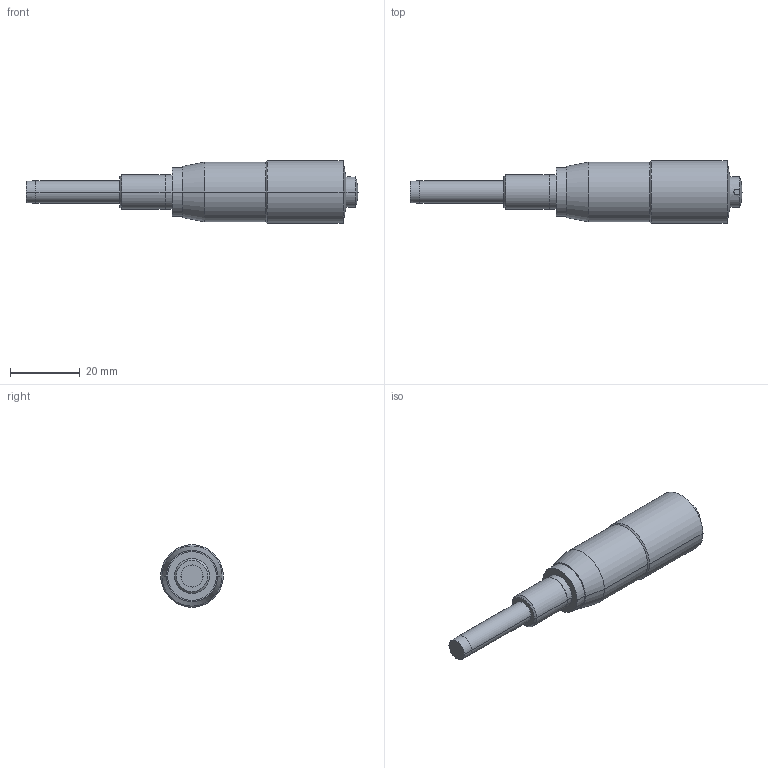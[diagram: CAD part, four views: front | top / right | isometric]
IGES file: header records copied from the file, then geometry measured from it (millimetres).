
Start section: Elysium IGES Interface
Global section: file name: 69HR:\01_商品設計部\01_MK外ﾃｰﾏ(U)\15_MH_3D\IGESﾌｧｲﾙ\150-196_MHN1-25T.igs; native system: Creo Elements/Direct Modeling 18.1B  29-Sep-2012; preprocessor: Creo Element/Direct IGES_3D V2.2; author: Unknown; organization: Unknown; date: 20140624.083035; units: millimetre
Bounding box: 95.5 x 18 x 18 mm (x, y, z)
Volume: 13826.5 mm3; surface area: 4192.9 mm2
Topology: 1 solids, 1 shells, 35 faces, 70 edges, 41 vertices
Faces by surface type: bspline 35
